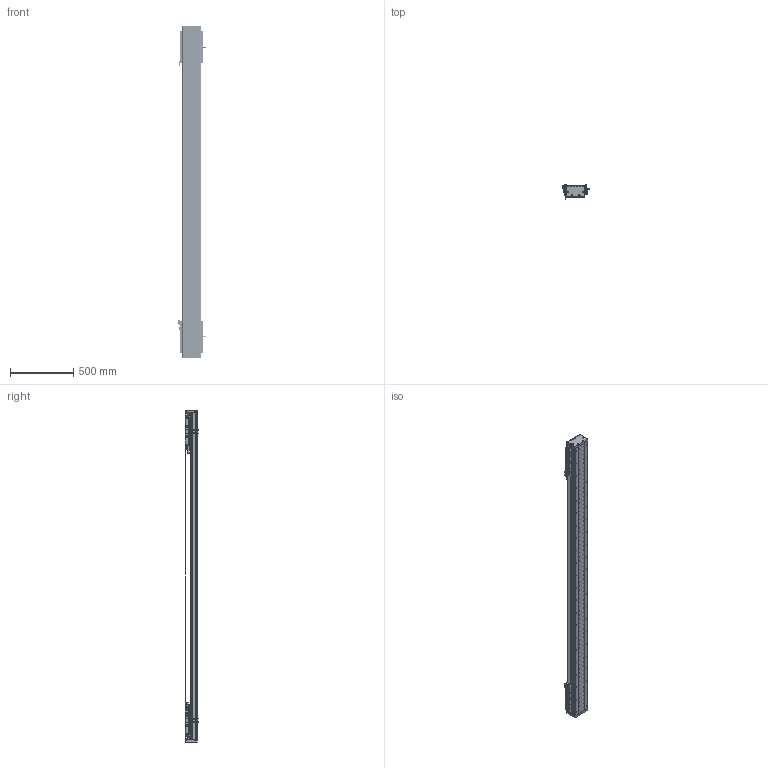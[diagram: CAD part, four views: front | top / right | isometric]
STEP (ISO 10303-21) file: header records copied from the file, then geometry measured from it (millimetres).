
FILE_DESCRIPTION (( 'STEP AP203' ), '1' );
FILE_NAME ('DA-C145-2-C3-T2000-C010-0.2 眻盄萇儂.STEP', '2025-08-13T10:25:18', ( '' ), ( '' ), 'SwSTEP 2.0', 'SolidWorks 2019', '' );
FILE_SCHEMA (( 'CONFIG_CONTROL_DESIGN' ));
Length unit declared in the file: millimetre
Products named in the file (38): 葩璃 DA145-C3-DP-B-00 菜えB^CU145-W 幗紩賑怢; 复件 DA145 钢带^复件 CU145 钢带组件_DA-C145-2-C3-T-C010-0.2; 葩璃 DA145-C3-DP-A-00 菜えA^CU145-W 幗紩賑怢; 复件 DA145-C3-YB-A-00 压板A^CU145-W 滚珠滑台; CU145-W-00 珨极趙賑雄怢啣-1; 复件 DA145-DG 钢带端盖^复件 CU145 钢带组件_DA-C145-2-C3-T-C010-0.2; DKW168-HXJ-ZJ-00 笢潔滅袉砎蝶; CU145-W 幗紩賑怢; 复件 DA95-HK-GT-00 滑块钢轨^CU145-W-00 一体化滑动台板; 复件 DA95-MFP-01 密封片^CU145-W 滚珠滑台; 葩璃 DA95-HXJ-00 遣喳砎蝶^DA-C145-2-C3-T-C010-0.2; DKW-GYP-ZJ-00 笢潔嫖萇覜茼え; IU-CU145-L-00 菁釱(L2580); 复件 纯铜油杯 6x6mm^CU145-W 滚珠滑台; 葩璃 CKMA01-W060-TRL^DA-C145-2-C3-T-C010-0.2; 葩璃 鞠褒情蹟譫 M3^DA-C145-2-C3-T-C010-0.2; 葩璃 PM-Y65^DA-C145-2-C3-T-C010-0.2; 复件 DA145-C3-DK-00 挡块^CU145-W 滚珠滑台; TAY01-M8; CU145-W 幗紩賑怢-1; 葩璃 PM-T45^DA-C145-2-C3-T-C010-0.2; CU145-W-00 珨极趙賑雄怢啣; IU-CU145-L 菁釱絳寢; 葩璃 DA95-GT-T-00^IU-CU145-L 菁釱絳寢; 葩璃 CKM03-W060-C1C2-TP-0.2^DA-C145-2-C3-T-C010-0.2; 66245-CU145-HT-W-00 賑雄怢啣(3D芞祧)(00); 复件 DA146 钢带拉块^复件 CU145 钢带组件_DA-C145-2-C3-T-C010-0.2; 复件 DA145-GYP-00 光电感应片^DA-C145-2-C3-T-C010-0.2; 葩璃 XD-U-02L 棠掑喜^DA-C145-2-C3-T-C010-0.2; DKW-KGZ-ZJ-00 中间光电开关支架; 复件 DA146 钢带垫块^复件 CU145 钢带组件_DA-C145-2-C3-T-C010-0.2; 复件 半圆头内六角螺钉 M3×6^CU145-W 滚珠滑台; DA-C145-2-C3-T2000-C010-0.2 眻盄萇儂; 复件 DA145-C3-YB-B-00 压板B^CU145-W 滚珠滑台; 复件 DA95-DB-00  挡板^CU145-W 滚珠滑台; 葩璃 DMA-010-0.2 黍杅芛^DA-C145-2-C3-T-C010-0.2; 葩璃 CU145 詩湍郪璃^DA-C145-2-C3-T-C010-0.2; 复件 内六角平端紧定螺钉 GB.T77-2000 M5×10^CU145-W 滚珠滑台
Assembly tree (180 placements, depth 4):
  DA-C145-2-C3-T2000-C010-0.2 眻盄萇儂
    IU-CU145-L 菁釱絳寢
      IU-CU145-L-00 菁釱(L2580)
      葩璃 DA95-GT-T-00^IU-CU145-L 菁釱絳寢  x4
    葩璃 CU145 詩湍郪璃^DA-C145-2-C3-T-C010-0.2
      复件 DA145-DG 钢带端盖^复件 CU145 钢带组件_DA-C145-2-C3-T-C010-0.2  x2
      复件 DA146 钢带拉块^复件 CU145 钢带组件_DA-C145-2-C3-T-C010-0.2  x2
      复件 DA146 钢带垫块^复件 CU145 钢带组件_DA-C145-2-C3-T-C010-0.2  x2
      复件 DA145 钢带^复件 CU145 钢带组件_DA-C145-2-C3-T-C010-0.2
    CU145-W 幗紩賑怢
      CU145-W-00 珨极趙賑雄怢啣
        66245-CU145-HT-W-00 賑雄怢啣(3D芞祧)(00)
        复件 DA95-HK-GT-00 滑块钢轨^CU145-W-00 一体化滑动台板  x8
      复件 DA95-MFP-01 密封片^CU145-W 滚珠滑台  x8
      复件 DA95-DB-00  挡板^CU145-W 滚珠滑台  x8
      复件 内六角平端紧定螺钉 GB.T77-2000 M5×10^CU145-W 滚珠滑台  x4
      复件 纯铜油杯 6x6mm^CU145-W 滚珠滑台  x4
      复件 半圆头内六角螺钉 M3×6^CU145-W 滚珠滑台  x16
      复件 DA145-C3-DK-00 挡块^CU145-W 滚珠滑台  x4
      葩璃 DA145-C3-DP-B-00 菜えB^CU145-W 幗紩賑怢  x2
      复件 DA145-C3-YB-B-00 压板B^CU145-W 滚珠滑台  x2
      葩璃 DA145-C3-DP-A-00 菜えA^CU145-W 幗紩賑怢  x3
      复件 DA145-C3-YB-A-00 压板A^CU145-W 滚珠滑台  x3
      TAY01-M8  x4
    CU145-W 幗紩賑怢-1
      CU145-W-00 珨极趙賑雄怢啣-1
        66245-CU145-HT-W-00 賑雄怢啣(3D芞祧)(00)
        复件 DA95-HK-GT-00 滑块钢轨^CU145-W-00 一体化滑动台板  x8
      复件 DA95-MFP-01 密封片^CU145-W 滚珠滑台  x8
      复件 DA95-DB-00  挡板^CU145-W 滚珠滑台  x8
      复件 内六角平端紧定螺钉 GB.T77-2000 M5×10^CU145-W 滚珠滑台  x4
      复件 纯铜油杯 6x6mm^CU145-W 滚珠滑台  x4
      复件 半圆头内六角螺钉 M3×6^CU145-W 滚珠滑台  x16
      复件 DA145-C3-DK-00 挡块^CU145-W 滚珠滑台  x4
      葩璃 DA145-C3-DP-B-00 菜えB^CU145-W 幗紩賑怢  x2
      复件 DA145-C3-YB-B-00 压板B^CU145-W 滚珠滑台  x2
      葩璃 DA145-C3-DP-A-00 菜えA^CU145-W 幗紩賑怢  x3
      复件 DA145-C3-YB-A-00 压板A^CU145-W 滚珠滑台  x3
      TAY01-M8  x4
    葩璃 CKMA01-W060-TRL^DA-C145-2-C3-T-C010-0.2
    葩璃 PM-T45^DA-C145-2-C3-T-C010-0.2  x4
    葩璃 XD-U-02L 棠掑喜^DA-C145-2-C3-T-C010-0.2
    葩璃 DA95-HXJ-00 遣喳砎蝶^DA-C145-2-C3-T-C010-0.2  x4
    葩璃 CKM03-W060-C1C2-TP-0.2^DA-C145-2-C3-T-C010-0.2  x2
    葩璃 DMA-010-0.2 黍杅芛^DA-C145-2-C3-T-C010-0.2  x2
    复件 DA145-GYP-00 光电感应片^DA-C145-2-C3-T-C010-0.2  x2
    DKW-GYP-ZJ-00 笢潔嫖萇覜茼え
    DKW-KGZ-ZJ-00 中间光电开关支架
    葩璃 PM-Y65^DA-C145-2-C3-T-C010-0.2
    葩璃 鞠褒情蹟譫 M3^DA-C145-2-C3-T-C010-0.2  x8
    DKW168-HXJ-ZJ-00 笢潔滅袉砎蝶
Bounding box: 213.7 x 108.45 x 2616 mm (x, y, z)
Volume: 14245324.8 mm3; surface area: 4503108.5 mm2
Topology: 175 solids, 239 shells, 7573 faces, 20505 edges, 12689 vertices
Faces by surface type: cylinder 3282, plane 2951, cone 1184, torus 140, sphere 8, bspline 8
Entity records: 140772 total; most frequent: CARTESIAN_POINT 40478, ORIENTED_EDGE 19696, DIRECTION 18809, EDGE_CURVE 9848, AXIS2_PLACEMENT_3D 6919, VERTEX_POINT 6388, LINE 4971, VECTOR 4971
